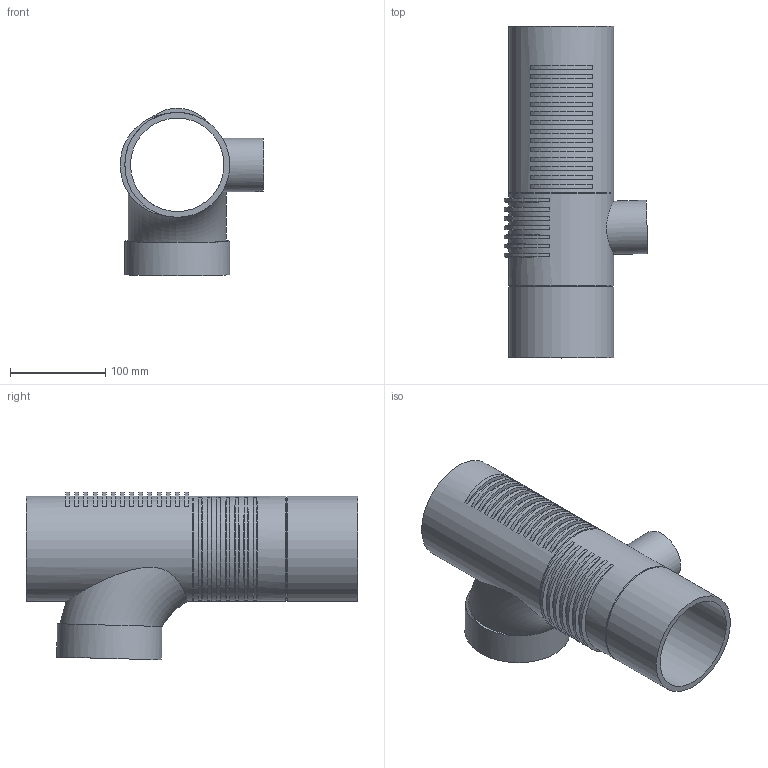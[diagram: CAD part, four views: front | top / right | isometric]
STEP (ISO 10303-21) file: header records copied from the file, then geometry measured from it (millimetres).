
FILE_DESCRIPTION(/* description */ (''),/* implementation_level */ '2;1');
FILE_NAME(/* name */ 'Z:\Geberit\Export\NewStep\310117.stp',/* time_stamp */ '2014-04-01T20:08:09+02:00',/* author */ ('ML'),/* organization */ (''),/* preprocessor_version */ 'ST-DEVELOPER v15.2',/* originating_system */ 'Autodesk Inventor 2014',/* authorisation */ '');
FILE_SCHEMA (('AUTOMOTIVE_DESIGN { 1 0 10303 214 3 1 1 }'));
Length unit declared in the file: millimetre
Products named in the file (5): 310058; 861734; 310108; 861645; 310117
Bounding box: 150.5 x 348 x 175.9 mm (x, y, z)
Volume: 818047.4 mm3; surface area: 294094.3 mm2
Topology: 2 solids, 2 shells, 84 faces, 190 edges, 131 vertices
Faces by surface type: plane 36, cylinder 30, cone 16, torus 2
Full cylindrical faces by diameter (mm): 49.6 x1, 56 x1, 98 x3, 110 x4
Entity records: 3171 total; most frequent: CARTESIAN_POINT 1218, DIRECTION 402, ORIENTED_EDGE 328, AXIS2_PLACEMENT_3D 180, EDGE_CURVE 164, EDGE_LOOP 129, VERTEX_POINT 121, CIRCLE 87
